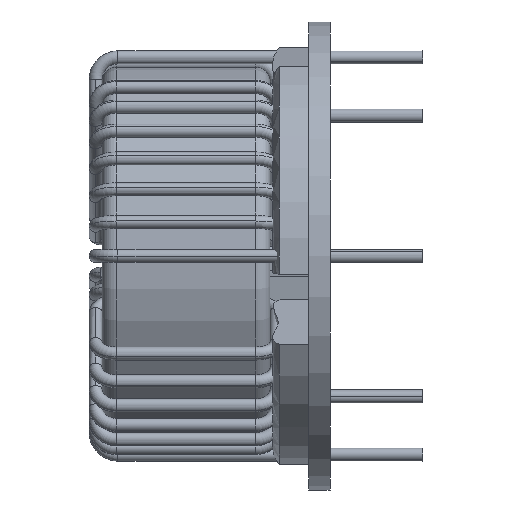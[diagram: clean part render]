
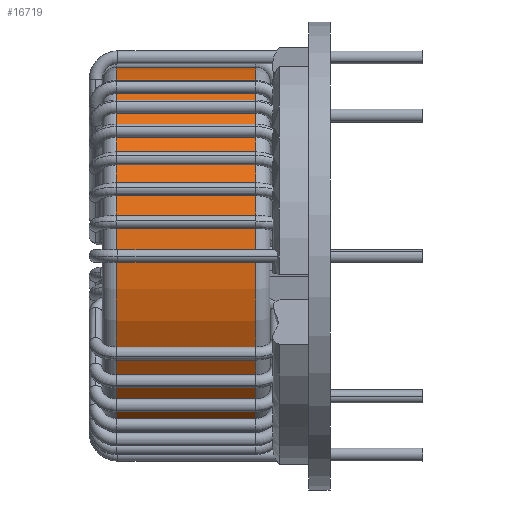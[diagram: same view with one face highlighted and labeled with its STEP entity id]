
A CAD part, left-side view. The second image highlights one B-rep face of the part: STEP entity #16719.
In plain terms, the highlighted cylindrical face has radius 26.585 mm (diameter 53.17 mm), a partial arc.
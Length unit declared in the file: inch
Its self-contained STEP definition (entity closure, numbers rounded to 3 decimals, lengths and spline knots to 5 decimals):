
#643 = VERTEX_POINT ( 'NONE', #13072 ) ;
#1707 = ORIENTED_EDGE ( 'NONE', *, *, #15045, .T. ) ;
#4079 = DIRECTION ( 'NONE',  ( 0., -1., 0. ) ) ;
#4733 = CIRCLE ( 'NONE', #15490, 1.04665 ) ;
#5009 = CIRCLE ( 'NONE', #9181, 1.04665 ) ;
#7177 = ORIENTED_EDGE ( 'NONE', *, *, #22750, .T. ) ;
#8111 = DIRECTION ( 'NONE',  ( 0., 0., 1. ) ) ;
#8154 = ORIENTED_EDGE ( 'NONE', *, *, #10777, .F. ) ;
#8751 = DIRECTION ( 'NONE',  ( 0., -1., 0. ) ) ;
#9181 = AXIS2_PLACEMENT_3D ( 'NONE', #21145, #10332, #8111 ) ;
#9335 = LINE ( 'NONE', #22400, #18678 ) ;
#9837 = CYLINDRICAL_SURFACE ( 'NONE', #19253, 1.04665 ) ;
#10332 = DIRECTION ( 'NONE',  ( 0., 1., 0. ) ) ;
#10666 = DIRECTION ( 'NONE',  ( 0., -1., 0. ) ) ;
#10777 = EDGE_CURVE ( 'NONE', #11610, #20355, #19025, .T. ) ;
#10979 = DIRECTION ( 'NONE',  ( 0., 0., -1. ) ) ;
#11610 = VERTEX_POINT ( 'NONE', #15308 ) ;
#11638 = EDGE_CURVE ( 'NONE', #643, #12084, #9335, .T. ) ;
#12084 = VERTEX_POINT ( 'NONE', #15073 ) ;
#12782 = ORIENTED_EDGE ( 'NONE', *, *, #11638, .T. ) ;
#13072 = CARTESIAN_POINT ( 'NONE',  ( 0., 1.18583, -1.04665 ) ) ;
#14385 = CARTESIAN_POINT ( 'NONE',  ( 0., 1.18583, 0. ) ) ;
#15045 = EDGE_CURVE ( 'NONE', #12084, #20355, #5009, .T. ) ;
#15066 = FACE_OUTER_BOUND ( 'NONE', #19307, .T. ) ;
#15073 = CARTESIAN_POINT ( 'NONE',  ( 0., 0.41299, -1.04665 ) ) ;
#15308 = CARTESIAN_POINT ( 'NONE',  ( 0., 1.18583, 1.04665 ) ) ;
#15490 = AXIS2_PLACEMENT_3D ( 'NONE', #14385, #10666, #19971 ) ;
#16719 = ADVANCED_FACE ( 'NONE', ( #15066 ), #9837, .T. ) ;
#18061 = CARTESIAN_POINT ( 'NONE',  ( 0., 1.26457, 0. ) ) ;
#18678 = VECTOR ( 'NONE', #4079, 39.37008 ) ;
#19025 = LINE ( 'NONE', #21663, #21909 ) ;
#19253 = AXIS2_PLACEMENT_3D ( 'NONE', #18061, #8751, #10979 ) ;
#19307 = EDGE_LOOP ( 'NONE', ( #8154, #7177, #12782, #1707 ) ) ;
#19971 = DIRECTION ( 'NONE',  ( 0., 0., 1. ) ) ;
#19976 = CARTESIAN_POINT ( 'NONE',  ( 0., 0.41299, 1.04665 ) ) ;
#20355 = VERTEX_POINT ( 'NONE', #19976 ) ;
#20890 = DIRECTION ( 'NONE',  ( 0., -1., 0. ) ) ;
#21145 = CARTESIAN_POINT ( 'NONE',  ( 0., 0.41299, 0. ) ) ;
#21663 = CARTESIAN_POINT ( 'NONE',  ( 0., 1.26457, 1.04665 ) ) ;
#21909 = VECTOR ( 'NONE', #20890, 39.37008 ) ;
#22400 = CARTESIAN_POINT ( 'NONE',  ( 0., 1.26457, -1.04665 ) ) ;
#22750 = EDGE_CURVE ( 'NONE', #11610, #643, #4733, .T. ) ;
